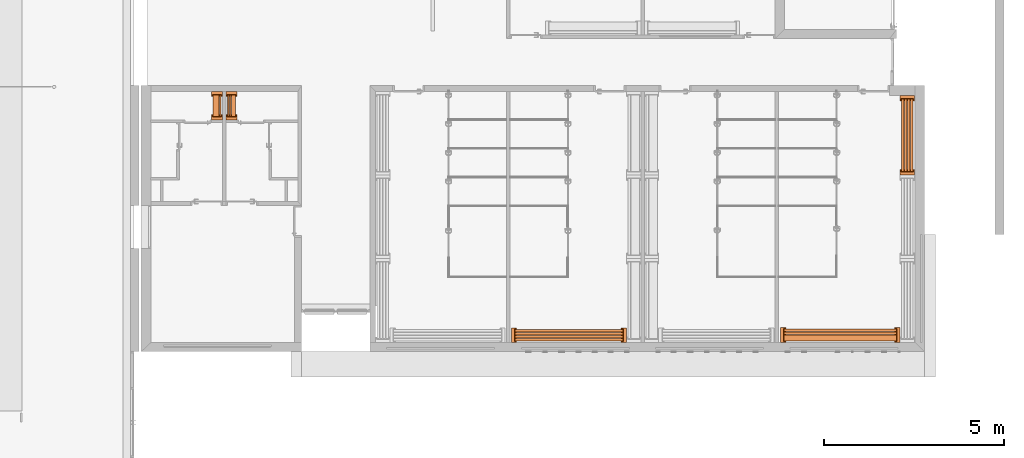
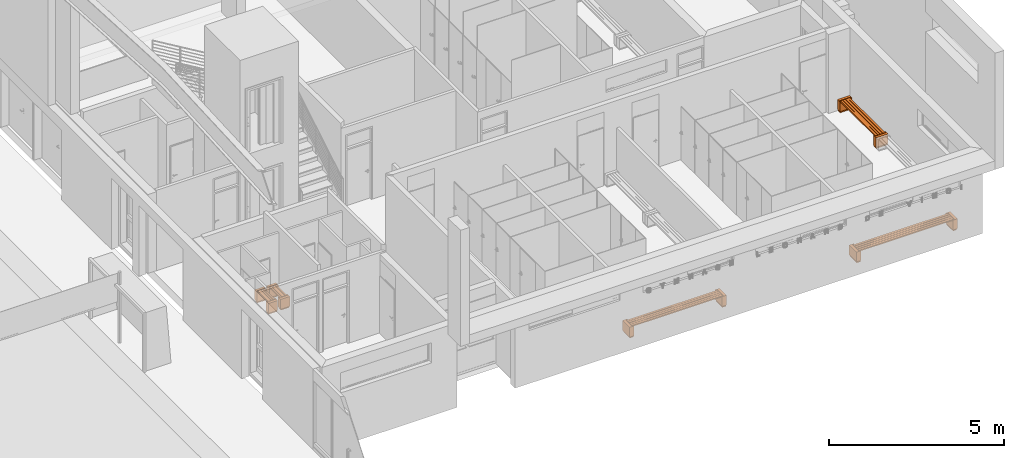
# One storey, part 45 of 45: 5 proxies.
"""IFC2X3 building model written with IfcOpenShell, lengths in metres."""

import ifcopenshell
import ifcopenshell.guid

model = None  # the IFC model being written
_history = None  # IfcOwnerHistory: only IFC2X3 demands one
_inside = {}  # id of a spatial element -> (the spatial element, [elements in it])
_under = {}  # id of a project, library or spatial element -> (it, [spatial elements below it])
_declared = {}  # id of a project -> (the project, [libraries it declares])
_typed = {}  # id of a type object -> (the type object, [elements of that type])
_made_of = {}  # id of a material, layer set ... -> (it, [elements and type objects made of it])


def new_model(schema):
    """Start an empty IFC model of exactly this schema.

    Asked for "IFC4X3", IfcOpenShell would pick the latest addendum, in which some entities
    have other attributes; the version numbers below select the first issue.
    IFC2X3 requires an IfcOwnerHistory on every rooted entity: one is made here for all.
    """
    global model, _history
    if schema == "IFC4X3":
        model = ifcopenshell.file(schema_version=(4, 3, 0, 0))
    else:
        model = ifcopenshell.file(schema=schema)
    _inside.clear()
    _under.clear()
    _declared.clear()
    _typed.clear()
    _made_of.clear()
    _history = None
    if model.schema == "IFC2X3":
        org = make("IfcOrganization", Name="unknown")
        user = make(
            "IfcPersonAndOrganization",
            ThePerson=make("IfcPerson", FamilyName="unknown"),
            TheOrganization=org,
        )
        app = make(
            "IfcApplication",
            ApplicationDeveloper=org,
            Version="unknown",
            ApplicationFullName="unknown",
            ApplicationIdentifier="unknown",
        )
        _history = make(
            "IfcOwnerHistory",
            OwningUser=user,
            OwningApplication=app,
            ChangeAction="ADDED",
            CreationDate=0,
        )
    return model


def make(cls, **values):
    """One entity of the class cls with the attributes given. An attribute that is None is left unset."""
    return model.create_entity(
        cls, **{name: value for name, value in values.items() if value is not None}
    )


def entity(cls, *values):
    """Any entity or typed value of the class cls, its attributes in the order of the schema. None: left unset."""
    e = model.create_entity(cls)
    for i, value in enumerate(values):
        if value is not None:
            e[i] = value
    return e


def rooted(cls, **values):
    """An entity with a GlobalId (a new one), such as an element, a storey or a relation."""
    return make(cls, GlobalId=ifcopenshell.guid.new(), OwnerHistory=_history, **values)


def si_unit(unit_type, name, prefix=None):
    """IfcSIUnit, for example si_unit("LENGTHUNIT", "METRE", prefix="MILLI")."""
    return make("IfcSIUnit", UnitType=unit_type, Prefix=prefix, Name=name)


def converted_unit(unit_type, name, factor, base, dimensions=None, offset=None):
    """IfcConversionBasedUnit, such as the inch: factor (a typed value) times the base unit."""
    return make(
        "IfcConversionBasedUnit"
        if offset is None
        else "IfcConversionBasedUnitWithOffset",
        ConversionOffset=offset,
        Dimensions=None
        if dimensions is None
        else entity("IfcDimensionalExponents", *dimensions),
        UnitType=unit_type,
        Name=name,
        ConversionFactor=make(
            "IfcMeasureWithUnit", ValueComponent=factor, UnitComponent=base
        ),
    )


def money_unit(currency):
    """IfcMonetaryUnit."""
    return make("IfcMonetaryUnit", Currency=currency)


def assignment(units):
    """IfcUnitAssignment: the units of a project."""
    return None if units is None else make("IfcUnitAssignment", Units=units)


def point(xyz):
    """IfcCartesianPoint."""
    return None if xyz is None else make("IfcCartesianPoint", Coordinates=xyz)


def direction(xyz):
    """IfcDirection."""
    return None if xyz is None else make("IfcDirection", DirectionRatios=xyz)


def frame(location, z_axis=None, x_axis=None):
    """IfcAxis2Placement3D, a coordinate frame: its origin and axes. An axis left out is left unset."""
    return make(
        "IfcAxis2Placement3D",
        Location=point(location),
        Axis=direction(z_axis),
        RefDirection=direction(x_axis),
    )


def origin_with_axes():
    """The frame at (0, 0, 0) with the z axis (0, 0, 1) and the x axis (1, 0, 0) written out."""
    return frame((0.0, 0.0, 0.0), z_axis=(0.0, 0.0, 1.0), x_axis=(1.0, 0.0, 0.0))


def place(relative_to, where):
    """IfcLocalPlacement: puts the frame where relative to a parent placement (None: the world)."""
    return make(
        "IfcLocalPlacement", PlacementRelTo=relative_to, RelativePlacement=where
    )


def context(
    kind, dimensions, precision=None, world=None, true_north=None, identifier=None
):
    """IfcGeometricRepresentationContext, for example the 3D "Model" context."""
    return make(
        "IfcGeometricRepresentationContext",
        ContextIdentifier=identifier,
        ContextType=kind,
        CoordinateSpaceDimension=dimensions,
        Precision=precision,
        WorldCoordinateSystem=world,
        TrueNorth=true_north,
    )


def subcontext(parent, identifier, kind, view, scale=None):
    """IfcGeometricRepresentationSubContext, for example "Body" below "Model"."""
    return make(
        "IfcGeometricRepresentationSubContext",
        ContextIdentifier=identifier,
        ContextType=kind,
        ParentContext=parent,
        TargetScale=scale,
        TargetView=view,
    )


def project(units=None, contexts=None):
    """IfcProject with its units and contexts."""
    return rooted(
        "IfcProject",
        Name="project",
        RepresentationContexts=contexts,
        UnitsInContext=assignment(units),
    )


def spatial(cls, under=None, at=None, **own):
    """A site, building, storey or space (cls), placed at a placement, below another one or the project."""
    s = rooted(cls, ObjectPlacement=at, **own)
    if under is not None:
        _under.setdefault(under.id(), (under, []))[1].append(s)
    return s


def faces_of(points, faces, orient=None, outer=None):
    """IfcFace entities. A face is a list of loops; a loop is a list of indices into points, from 0.

    orient and outer hold one flag for each loop. By default every Orientation is true, the
    first loop of a face is its IfcFaceOuterBound and the others are IfcFaceBound.
    """
    made = []
    for i, loops in enumerate(faces):
        bounds = []
        for j, loop in enumerate(loops):
            is_outer = j == 0 if outer is None else outer[i][j]
            bounds.append(
                make(
                    "IfcFaceOuterBound" if is_outer else "IfcFaceBound",
                    Bound=make("IfcPolyLoop", Polygon=[points[k] for k in loop]),
                    Orientation=True if orient is None else orient[i][j],
                )
            )
        made.append(make("IfcFace", Bounds=bounds))
    return made


def faceted_brep(points, faces, orient=None, outer=None, voids=None):
    """IfcFacetedBrep: a solid bounded by flat faces; with voids (closed shells), ...WithVoids."""
    shared = [point(p) for p in points]
    hull = make("IfcClosedShell", CfsFaces=faces_of(shared, faces, orient, outer))
    if voids is None:
        return make("IfcFacetedBrep", Outer=hull)
    return make(
        "IfcFacetedBrepWithVoids",
        Outer=hull,
        Voids=[
            make(cls, CfsFaces=faces_of(shared, fs, o, b)) for cls, fs, o, b in voids
        ],
    )


def shape(context_of_items, identifier, shape_type, items):
    """IfcShapeRepresentation: the items that make up one representation, for example the "Body"."""
    return make(
        "IfcShapeRepresentation",
        ContextOfItems=context_of_items,
        RepresentationIdentifier=identifier,
        RepresentationType=shape_type,
        Items=items,
    )


def material(Name=None, Category=None):
    """IfcMaterial."""
    return make("IfcMaterial", Name=Name, Category=Category)


def made_of(thing, what):
    """Note that an element or type object is made of a material, layer set ...; save() writes the relation."""
    if what is not None:
        _made_of.setdefault(what.id(), (what, []))[1].append(thing)
    return thing


def type_object(cls, material=None, **own):
    """A type object (cls), such as IfcWallType, which elements share."""
    return made_of(rooted(cls, **own), material)


def element(
    cls,
    number,
    at=None,
    inside=None,
    cuts=None,
    type_object=None,
    material=None,
    context=None,
    identifier="Body",
    shape_type=None,
    held_by="IfcProductDefinitionShape",
    body=None,
    shapes=None,
    **own,
):
    """One element of the class cls, such as IfcWall. Its Tag is "e" and its number.

    at: its placement. inside: the storey or other place that contains it. cuts: it is an
    opening in that element (IfcRelVoidsElement). A single representation is given by context,
    identifier, shape_type and body (its items); several are given by shapes. held_by: the class
    of the entity that holds the representations. save() writes the other relations.
    """
    e = rooted(cls, Tag="e%d" % number, ObjectPlacement=at, **own)
    if body is not None:
        shapes = [shape(context, identifier, shape_type, body)]
    if shapes is not None:
        e.Representation = make(held_by, Representations=shapes)
    if inside is not None:
        _inside.setdefault(inside.id(), (inside, []))[1].append(e)
    if cuts is not None:
        rooted(
            "IfcRelVoidsElement", RelatingBuildingElement=cuts, RelatedOpeningElement=e
        )
    if type_object is not None:
        _typed.setdefault(type_object.id(), (type_object, []))[1].append(e)
    return made_of(e, material)


def aggregate(whole, parts):
    """IfcRelAggregates: a whole, such as a stair, and the parts it consists of."""
    return rooted("IfcRelAggregates", RelatingObject=whole, RelatedObjects=parts)


def save(model, path):
    """Write the relations noted so far, then the file.

    IfcRelAggregates (storeys below a building ...), IfcRelContainedInSpatialStructure (elements
    in a storey), IfcRelDefinesByType, IfcRelAssociatesMaterial and IfcRelDeclares: one each for
    every whole, place, type object, material and project.
    """
    for whole, parts in _under.values():
        aggregate(whole, parts)
    for where, things in _inside.values():
        rooted(
            "IfcRelContainedInSpatialStructure",
            RelatedElements=things,
            RelatingStructure=where,
        )
    for kind, things in _typed.values():
        rooted("IfcRelDefinesByType", RelatedObjects=things, RelatingType=kind)
    for what, things in _made_of.values():
        rooted("IfcRelAssociatesMaterial", RelatedObjects=things, RelatingMaterial=what)
    for by, libraries in _declared.values():
        rooted("IfcRelDeclares", RelatingContext=by, RelatedDefinitions=libraries)
    model.write(path)


model = new_model("IFC2X3")

# Units and contexts
model_context = context("Model", 3, precision=1e-05, world=origin_with_axes(), true_north=direction((0.0, 1.0)))
body_context = subcontext(model_context, "Body", "Model", "MODEL_VIEW")
ifc_project = project(units=[si_unit("LENGTHUNIT", "METRE"), si_unit("AREAUNIT", "SQUARE_METRE"), si_unit("VOLUMEUNIT", "CUBIC_METRE"), converted_unit("PLANEANGLEUNIT", "DEGREE", entity("IfcPlaneAngleMeasure", 0.0174532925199), si_unit("PLANEANGLEUNIT", "RADIAN"), dimensions=[0, 0, 0, 0, 0, 0, 0]), si_unit("SOLIDANGLEUNIT", "STERADIAN"), money_unit("EUR"), converted_unit("TIMEUNIT", "Year", entity("IfcTimeMeasure", 31556926.0), si_unit("TIMEUNIT", "SECOND"), dimensions=[0, 0, 0, 0, 0, 0, 0]), si_unit("MASSUNIT", "GRAM"), si_unit("THERMODYNAMICTEMPERATUREUNIT", "DEGREE_CELSIUS"), si_unit("LUMINOUSINTENSITYUNIT", "LUMEN")], contexts=[model_context])

# Site, building, storey
site_placement = place(None, origin_with_axes())
site = spatial("IfcSite", under=ifc_project, at=site_placement, Name="Site", CompositionType="ELEMENT")
building_placement = place(site_placement, origin_with_axes())
building = spatial("IfcBuilding", under=site, at=building_placement, Name="Bâtiment", CompositionType="ELEMENT")
storey_placement = place(building_placement, origin_with_axes())
storey = spatial("IfcBuildingStorey", under=building, at=storey_placement, Name="NIVEAU BAS GYMNASE", CompositionType="ELEMENT", Elevation=0.0)

# Proxies
ifc_material = material(Name="AS_EMPTY")
building_element_proxy_type = type_object("IfcBuildingElementProxyType", Name="Banc public 04 10", PredefinedType="NOTDEFINED")
proxy_1_placement = place(storey_placement, frame((66.778457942, 11.8854823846, 0.0), z_axis=(0.0, 0.0, 1.0), x_axis=(0.0, -1.0, 0.0)))
element("IfcBuildingElementProxy", 1, at=proxy_1_placement, inside=storey, type_object=building_element_proxy_type, material=ifc_material, Name="Obj.-025", context=body_context, shape_type="Brep", body=[
    faceted_brep([(1.088333, -0.185, 0.0), (1.088333, -0.185, 0.05), (0.968333, -0.185, 0.05), (0.968333, -0.185, 0.0), (1.088333, 0.185, 0.0), (1.088333, 0.185, 0.05), (0.968333, 0.185, 0.05), (0.968333, 0.185, 0.0)], [[[0, 1, 2, 3]], [[4, 5, 1, 0]], [[1, 5, 6, 2]], [[3, 2, 6, 7]], [[0, 3, 7, 4]], [[7, 6, 5, 4]]]),
    faceted_brep([(1.103333, -0.2, 0.05), (1.103333, -0.2, 0.35), (0.953333, -0.2, 0.35), (0.953333, -0.2, 0.05), (1.103333, 0.2, 0.05), (1.103333, 0.2, 0.35), (0.953333, 0.2, 0.35), (0.953333, 0.2, 0.05)], [[[0, 1, 2, 3]], [[4, 5, 1, 0]], [[1, 5, 6, 2]], [[3, 2, 6, 7]], [[0, 3, 7, 4]], [[7, 6, 5, 4]]]),
    faceted_brep([(1.103333, -0.2, 0.35), (1.103333, -0.2, 0.39), (0.953333, -0.2, 0.39), (0.953333, -0.2, 0.35), (1.103333, 0.2, 0.35), (1.103333, 0.2, 0.39), (0.953333, 0.2, 0.39), (0.953333, 0.175, 0.39), (1.018333, 0.175, 0.39), (1.018333, -0.175, 0.39), (0.953333, -0.175, 0.39), (0.953333, -0.175, 0.35), (1.018333, -0.175, 0.35), (1.018333, 0.175, 0.35), (0.953333, 0.175, 0.35), (0.953333, 0.2, 0.35)], [[[0, 1, 2, 3]], [[4, 5, 1, 0]], [[1, 5, 6, 7, 8, 9, 10, 2]], [[3, 2, 10, 11]], [[0, 3, 11, 12, 13, 14, 15, 4]], [[15, 6, 5, 4]], [[14, 7, 6, 15]], [[13, 8, 7, 14]], [[12, 9, 8, 13]], [[11, 10, 9, 12]]]),
    faceted_brep([(-1.088333, -0.185, 0.0), (-0.968333, -0.185, 0.0), (-0.968333, -0.185, 0.05), (-1.088333, -0.185, 0.05), (-1.088333, 0.185, 0.0), (-0.968333, 0.185, 0.0), (-0.968333, 0.185, 0.05), (-1.088333, 0.185, 0.05)], [[[0, 1, 2, 3]], [[0, 4, 5, 1]], [[1, 5, 6, 2]], [[3, 2, 6, 7]], [[4, 0, 3, 7]], [[5, 4, 7, 6]]]),
    faceted_brep([(-1.103333, -0.2, 0.05), (-0.953333, -0.2, 0.05), (-0.953333, -0.2, 0.35), (-1.103333, -0.2, 0.35), (-1.103333, 0.2, 0.05), (-0.953333, 0.2, 0.05), (-0.953333, 0.2, 0.35), (-1.103333, 0.2, 0.35)], [[[0, 1, 2, 3]], [[0, 4, 5, 1]], [[1, 5, 6, 2]], [[3, 2, 6, 7]], [[4, 0, 3, 7]], [[5, 4, 7, 6]]]),
    faceted_brep([(-1.103333, -0.2, 0.35), (-0.953333, -0.2, 0.35), (-0.953333, -0.2, 0.39), (-1.103333, -0.2, 0.39), (-1.103333, 0.2, 0.35), (-0.953333, 0.2, 0.35), (-0.953333, 0.175, 0.35), (-1.018333, 0.175, 0.35), (-1.018333, -0.175, 0.35), (-0.953333, -0.175, 0.35), (-0.953333, -0.175, 0.39), (-1.018333, -0.175, 0.39), (-1.018333, 0.175, 0.39), (-0.953333, 0.175, 0.39), (-0.953333, 0.2, 0.39), (-1.103333, 0.2, 0.39)], [[[0, 1, 2, 3]], [[0, 4, 5, 6, 7, 8, 9, 1]], [[1, 9, 10, 2]], [[3, 2, 10, 11, 12, 13, 14, 15]], [[4, 0, 3, 15]], [[5, 4, 15, 14]], [[6, 5, 14, 13]], [[7, 6, 13, 12]], [[8, 7, 12, 11]], [[9, 8, 11, 10]]]),
    faceted_brep([(1.003333, -0.16, 0.35), (1.003333, -0.16, 0.39), (-1.003333, -0.16, 0.39), (-1.003333, -0.16, 0.35), (1.003333, -0.0875, 0.35), (1.003333, -0.0875, 0.39), (-1.003333, -0.0875, 0.39), (-1.003333, -0.0875, 0.35)], [[[0, 1, 2, 3]], [[4, 5, 1, 0]], [[1, 5, 6, 2]], [[3, 2, 6, 7]], [[0, 3, 7, 4]], [[7, 6, 5, 4]]]),
    faceted_brep([(1.003333, -0.0775, 0.35), (1.003333, -0.0775, 0.39), (-1.003333, -0.0775, 0.39), (-1.003333, -0.0775, 0.35), (1.003333, -0.005, 0.35), (1.003333, -0.005, 0.39), (-1.003333, -0.005, 0.39), (-1.003333, -0.005, 0.35)], [[[0, 1, 2, 3]], [[4, 5, 1, 0]], [[1, 5, 6, 2]], [[3, 2, 6, 7]], [[0, 3, 7, 4]], [[7, 6, 5, 4]]]),
    faceted_brep([(1.003333, 0.005, 0.35), (1.003333, 0.005, 0.39), (-1.003333, 0.005, 0.39), (-1.003333, 0.005, 0.35), (1.003333, 0.0775, 0.35), (1.003333, 0.0775, 0.39), (-1.003333, 0.0775, 0.39), (-1.003333, 0.0775, 0.35)], [[[0, 1, 2, 3]], [[4, 5, 1, 0]], [[1, 5, 6, 2]], [[3, 2, 6, 7]], [[0, 3, 7, 4]], [[7, 6, 5, 4]]]),
    faceted_brep([(1.003333, 0.0875, 0.35), (1.003333, 0.0875, 0.39), (-1.003333, 0.0875, 0.39), (-1.003333, 0.0875, 0.35), (1.003333, 0.16, 0.35), (1.003333, 0.16, 0.39), (-1.003333, 0.16, 0.39), (-1.003333, 0.16, 0.35)], [[[0, 1, 2, 3]], [[4, 5, 1, 0]], [[1, 5, 6, 2]], [[3, 2, 6, 7]], [[0, 3, 7, 4]], [[7, 6, 5, 4]]]),
])
proxy_2_placement = place(storey_placement, frame((57.3685729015, 6.32881571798, 0.0), z_axis=(0.0, 0.0, 1.0), x_axis=(-1.0, 0.0, 0.0)))
element("IfcBuildingElementProxy", 2, at=proxy_2_placement, inside=storey, type_object=building_element_proxy_type, material=ifc_material, Name="Obj.-025", context=body_context, shape_type="Brep", body=[
    faceted_brep([(1.584885, -0.185, 0.0), (1.584885, -0.185, 0.05), (1.464885, -0.185, 0.05), (1.464885, -0.185, 0.0), (1.584885, 0.185, 0.0), (1.584885, 0.185, 0.05), (1.464885, 0.185, 0.05), (1.464885, 0.185, 0.0)], [[[0, 1, 2, 3]], [[4, 5, 1, 0]], [[1, 5, 6, 2]], [[3, 2, 6, 7]], [[0, 3, 7, 4]], [[7, 6, 5, 4]]]),
    faceted_brep([(1.599885, -0.2, 0.05), (1.599885, -0.2, 0.35), (1.449885, -0.2, 0.35), (1.449885, -0.2, 0.05), (1.599885, 0.2, 0.05), (1.599885, 0.2, 0.35), (1.449885, 0.2, 0.35), (1.449885, 0.2, 0.05)], [[[0, 1, 2, 3]], [[4, 5, 1, 0]], [[1, 5, 6, 2]], [[3, 2, 6, 7]], [[0, 3, 7, 4]], [[7, 6, 5, 4]]]),
    faceted_brep([(1.599885, -0.2, 0.35), (1.599885, -0.2, 0.39), (1.449885, -0.2, 0.39), (1.449885, -0.2, 0.35), (1.599885, 0.2, 0.35), (1.599885, 0.2, 0.39), (1.449885, 0.2, 0.39), (1.449885, 0.175, 0.39), (1.514885, 0.175, 0.39), (1.514885, -0.175, 0.39), (1.449885, -0.175, 0.39), (1.449885, -0.175, 0.35), (1.514885, -0.175, 0.35), (1.514885, 0.175, 0.35), (1.449885, 0.175, 0.35), (1.449885, 0.2, 0.35)], [[[0, 1, 2, 3]], [[4, 5, 1, 0]], [[1, 5, 6, 7, 8, 9, 10, 2]], [[3, 2, 10, 11]], [[0, 3, 11, 12, 13, 14, 15, 4]], [[15, 6, 5, 4]], [[14, 7, 6, 15]], [[13, 8, 7, 14]], [[12, 9, 8, 13]], [[11, 10, 9, 12]]]),
    faceted_brep([(-1.584885, -0.185, 0.0), (-1.464885, -0.185, 0.0), (-1.464885, -0.185, 0.05), (-1.584885, -0.185, 0.05), (-1.584885, 0.185, 0.0), (-1.464885, 0.185, 0.0), (-1.464885, 0.185, 0.05), (-1.584885, 0.185, 0.05)], [[[0, 1, 2, 3]], [[0, 4, 5, 1]], [[1, 5, 6, 2]], [[3, 2, 6, 7]], [[4, 0, 3, 7]], [[5, 4, 7, 6]]]),
    faceted_brep([(-1.599885, -0.2, 0.05), (-1.449885, -0.2, 0.05), (-1.449885, -0.2, 0.35), (-1.599885, -0.2, 0.35), (-1.599885, 0.2, 0.05), (-1.449885, 0.2, 0.05), (-1.449885, 0.2, 0.35), (-1.599885, 0.2, 0.35)], [[[0, 1, 2, 3]], [[0, 4, 5, 1]], [[1, 5, 6, 2]], [[3, 2, 6, 7]], [[4, 0, 3, 7]], [[5, 4, 7, 6]]]),
    faceted_brep([(-1.599885, -0.2, 0.35), (-1.449885, -0.2, 0.35), (-1.449885, -0.2, 0.39), (-1.599885, -0.2, 0.39), (-1.599885, 0.2, 0.35), (-1.449885, 0.2, 0.35), (-1.449885, 0.175, 0.35), (-1.514885, 0.175, 0.35), (-1.514885, -0.175, 0.35), (-1.449885, -0.175, 0.35), (-1.449885, -0.175, 0.39), (-1.514885, -0.175, 0.39), (-1.514885, 0.175, 0.39), (-1.449885, 0.175, 0.39), (-1.449885, 0.2, 0.39), (-1.599885, 0.2, 0.39)], [[[0, 1, 2, 3]], [[0, 4, 5, 6, 7, 8, 9, 1]], [[1, 9, 10, 2]], [[3, 2, 10, 11, 12, 13, 14, 15]], [[4, 0, 3, 15]], [[5, 4, 15, 14]], [[6, 5, 14, 13]], [[7, 6, 13, 12]], [[8, 7, 12, 11]], [[9, 8, 11, 10]]]),
    faceted_brep([(1.499885, -0.16, 0.35), (1.499885, -0.16, 0.39), (-1.499885, -0.16, 0.39), (-1.499885, -0.16, 0.35), (1.499885, -0.0875, 0.35), (1.499885, -0.0875, 0.39), (-1.499885, -0.0875, 0.39), (-1.499885, -0.0875, 0.35)], [[[0, 1, 2, 3]], [[4, 5, 1, 0]], [[1, 5, 6, 2]], [[3, 2, 6, 7]], [[0, 3, 7, 4]], [[7, 6, 5, 4]]]),
    faceted_brep([(1.499885, -0.0775, 0.35), (1.499885, -0.0775, 0.39), (-1.499885, -0.0775, 0.39), (-1.499885, -0.0775, 0.35), (1.499885, -0.005, 0.35), (1.499885, -0.005, 0.39), (-1.499885, -0.005, 0.39), (-1.499885, -0.005, 0.35)], [[[0, 1, 2, 3]], [[4, 5, 1, 0]], [[1, 5, 6, 2]], [[3, 2, 6, 7]], [[0, 3, 7, 4]], [[7, 6, 5, 4]]]),
    faceted_brep([(1.499885, 0.005, 0.35), (1.499885, 0.005, 0.39), (-1.499885, 0.005, 0.39), (-1.499885, 0.005, 0.35), (1.499885, 0.0775, 0.35), (1.499885, 0.0775, 0.39), (-1.499885, 0.0775, 0.39), (-1.499885, 0.0775, 0.35)], [[[0, 1, 2, 3]], [[4, 5, 1, 0]], [[1, 5, 6, 2]], [[3, 2, 6, 7]], [[0, 3, 7, 4]], [[7, 6, 5, 4]]]),
    faceted_brep([(1.499885, 0.0875, 0.35), (1.499885, 0.0875, 0.39), (-1.499885, 0.0875, 0.39), (-1.499885, 0.0875, 0.35), (1.499885, 0.16, 0.35), (1.499885, 0.16, 0.39), (-1.499885, 0.16, 0.39), (-1.499885, 0.16, 0.35)], [[[0, 1, 2, 3]], [[4, 5, 1, 0]], [[1, 5, 6, 2]], [[3, 2, 6, 7]], [[0, 3, 7, 4]], [[7, 6, 5, 4]]]),
])
proxy_3_placement = place(storey_placement, frame((64.9148207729, 6.33678530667, 0.0), z_axis=(0.0, 0.0, 1.0), x_axis=(-1.0, 0.0, 0.0)))
element("IfcBuildingElementProxy", 3, at=proxy_3_placement, inside=storey, type_object=building_element_proxy_type, material=ifc_material, Name="Obj.-025", context=body_context, shape_type="Brep", body=[
    faceted_brep([(1.648637, -0.19297, 0.0), (1.648637, -0.19297, 0.05), (1.528637, -0.19297, 0.05), (1.528637, -0.19297, 0.0), (1.648637, 0.19297, 0.0), (1.648637, 0.19297, 0.05), (1.528637, 0.19297, 0.05), (1.528637, 0.19297, 0.0)], [[[0, 1, 2, 3]], [[4, 5, 1, 0]], [[1, 5, 6, 2]], [[3, 2, 6, 7]], [[0, 3, 7, 4]], [[7, 6, 5, 4]]]),
    faceted_brep([(1.663637, -0.20797, 0.05), (1.663637, -0.20797, 0.35), (1.513637, -0.20797, 0.35), (1.513637, -0.20797, 0.05), (1.663637, 0.20797, 0.05), (1.663637, 0.20797, 0.35), (1.513637, 0.20797, 0.35), (1.513637, 0.20797, 0.05)], [[[0, 1, 2, 3]], [[4, 5, 1, 0]], [[1, 5, 6, 2]], [[3, 2, 6, 7]], [[0, 3, 7, 4]], [[7, 6, 5, 4]]]),
    faceted_brep([(1.663637, -0.20797, 0.35), (1.663637, -0.20797, 0.39), (1.513637, -0.20797, 0.39), (1.513637, -0.20797, 0.35), (1.663637, 0.20797, 0.35), (1.663637, 0.20797, 0.39), (1.513637, 0.20797, 0.39), (1.513637, 0.18297, 0.39), (1.578637, 0.18297, 0.39), (1.578637, -0.18297, 0.39), (1.513637, -0.18297, 0.39), (1.513637, -0.18297, 0.35), (1.578637, -0.18297, 0.35), (1.578637, 0.18297, 0.35), (1.513637, 0.18297, 0.35), (1.513637, 0.20797, 0.35)], [[[0, 1, 2, 3]], [[4, 5, 1, 0]], [[1, 5, 6, 7, 8, 9, 10, 2]], [[3, 2, 10, 11]], [[0, 3, 11, 12, 13, 14, 15, 4]], [[15, 6, 5, 4]], [[14, 7, 6, 15]], [[13, 8, 7, 14]], [[12, 9, 8, 13]], [[11, 10, 9, 12]]]),
    faceted_brep([(-1.648637, -0.19297, 0.0), (-1.528637, -0.19297, 0.0), (-1.528637, -0.19297, 0.05), (-1.648637, -0.19297, 0.05), (-1.648637, 0.19297, 0.0), (-1.528637, 0.19297, 0.0), (-1.528637, 0.19297, 0.05), (-1.648637, 0.19297, 0.05)], [[[0, 1, 2, 3]], [[0, 4, 5, 1]], [[1, 5, 6, 2]], [[3, 2, 6, 7]], [[4, 0, 3, 7]], [[5, 4, 7, 6]]]),
    faceted_brep([(-1.663637, -0.20797, 0.05), (-1.513637, -0.20797, 0.05), (-1.513637, -0.20797, 0.35), (-1.663637, -0.20797, 0.35), (-1.663637, 0.20797, 0.05), (-1.513637, 0.20797, 0.05), (-1.513637, 0.20797, 0.35), (-1.663637, 0.20797, 0.35)], [[[0, 1, 2, 3]], [[0, 4, 5, 1]], [[1, 5, 6, 2]], [[3, 2, 6, 7]], [[4, 0, 3, 7]], [[5, 4, 7, 6]]]),
    faceted_brep([(-1.663637, -0.20797, 0.35), (-1.513637, -0.20797, 0.35), (-1.513637, -0.20797, 0.39), (-1.663637, -0.20797, 0.39), (-1.663637, 0.20797, 0.35), (-1.513637, 0.20797, 0.35), (-1.513637, 0.18297, 0.35), (-1.578637, 0.18297, 0.35), (-1.578637, -0.18297, 0.35), (-1.513637, -0.18297, 0.35), (-1.513637, -0.18297, 0.39), (-1.578637, -0.18297, 0.39), (-1.578637, 0.18297, 0.39), (-1.513637, 0.18297, 0.39), (-1.513637, 0.20797, 0.39), (-1.663637, 0.20797, 0.39)], [[[0, 1, 2, 3]], [[0, 4, 5, 6, 7, 8, 9, 1]], [[1, 9, 10, 2]], [[3, 2, 10, 11, 12, 13, 14, 15]], [[4, 0, 3, 15]], [[5, 4, 15, 14]], [[6, 5, 14, 13]], [[7, 6, 13, 12]], [[8, 7, 12, 11]], [[9, 8, 11, 10]]]),
    faceted_brep([(1.563637, -0.16797, 0.35), (1.563637, -0.16797, 0.39), (-1.563637, -0.16797, 0.39), (-1.563637, -0.16797, 0.35), (1.563637, -0.091485, 0.35), (1.563637, -0.091485, 0.39), (-1.563637, -0.091485, 0.39), (-1.563637, -0.091485, 0.35)], [[[0, 1, 2, 3]], [[4, 5, 1, 0]], [[1, 5, 6, 2]], [[3, 2, 6, 7]], [[0, 3, 7, 4]], [[7, 6, 5, 4]]]),
    faceted_brep([(1.563637, -0.081485, 0.35), (1.563637, -0.081485, 0.39), (-1.563637, -0.081485, 0.39), (-1.563637, -0.081485, 0.35), (1.563637, -0.005, 0.35), (1.563637, -0.005, 0.39), (-1.563637, -0.005, 0.39), (-1.563637, -0.005, 0.35)], [[[0, 1, 2, 3]], [[4, 5, 1, 0]], [[1, 5, 6, 2]], [[3, 2, 6, 7]], [[0, 3, 7, 4]], [[7, 6, 5, 4]]]),
    faceted_brep([(1.563637, 0.005, 0.35), (1.563637, 0.005, 0.39), (-1.563637, 0.005, 0.39), (-1.563637, 0.005, 0.35), (1.563637, 0.081485, 0.35), (1.563637, 0.081485, 0.39), (-1.563637, 0.081485, 0.39), (-1.563637, 0.081485, 0.35)], [[[0, 1, 2, 3]], [[4, 5, 1, 0]], [[1, 5, 6, 2]], [[3, 2, 6, 7]], [[0, 3, 7, 4]], [[7, 6, 5, 4]]]),
    faceted_brep([(1.563637, 0.091485, 0.35), (1.563637, 0.091485, 0.39), (-1.563637, 0.091485, 0.39), (-1.563637, 0.091485, 0.35), (1.563637, 0.16797, 0.35), (1.563637, 0.16797, 0.39), (-1.563637, 0.16797, 0.39), (-1.563637, 0.16797, 0.35)], [[[0, 1, 2, 3]], [[4, 5, 1, 0]], [[1, 5, 6, 2]], [[3, 2, 6, 7]], [[0, 3, 7, 4]], [[7, 6, 5, 4]]]),
])
proxy_4_placement = place(storey_placement, frame((47.588457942, 12.708815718, 0.0), z_axis=(0.0, 0.0, 1.0), x_axis=(0.0, -1.0, 0.0)))
element("IfcBuildingElementProxy", 4, at=proxy_4_placement, inside=storey, type_object=building_element_proxy_type, material=ifc_material, Name="Obj.-025", context=body_context, shape_type="Brep", body=[
    faceted_brep([(-0.385, -0.135, 0.0), (-0.265, -0.135, 0.0), (-0.265, -0.135, 0.05), (-0.385, -0.135, 0.05), (-0.385, 0.135, 0.0), (-0.265, 0.135, 0.0), (-0.265, 0.135, 0.05), (-0.385, 0.135, 0.05)], [[[0, 1, 2, 3]], [[0, 4, 5, 1]], [[1, 5, 6, 2]], [[3, 2, 6, 7]], [[4, 0, 3, 7]], [[5, 4, 7, 6]]]),
    faceted_brep([(-0.4, -0.15, 0.05), (-0.25, -0.15, 0.05), (-0.25, -0.15, 0.35), (-0.4, -0.15, 0.35), (-0.4, 0.15, 0.05), (-0.25, 0.15, 0.05), (-0.25, 0.15, 0.35), (-0.4, 0.15, 0.35)], [[[0, 1, 2, 3]], [[0, 4, 5, 1]], [[1, 5, 6, 2]], [[3, 2, 6, 7]], [[4, 0, 3, 7]], [[5, 4, 7, 6]]]),
    faceted_brep([(-0.4, -0.15, 0.35), (-0.25, -0.15, 0.35), (-0.25, -0.15, 0.39), (-0.4, -0.15, 0.39), (-0.4, 0.15, 0.35), (-0.25, 0.15, 0.35), (-0.25, 0.125, 0.35), (-0.315, 0.125, 0.35), (-0.315, -0.125, 0.35), (-0.25, -0.125, 0.35), (-0.25, -0.125, 0.39), (-0.315, -0.125, 0.39), (-0.315, 0.125, 0.39), (-0.25, 0.125, 0.39), (-0.25, 0.15, 0.39), (-0.4, 0.15, 0.39)], [[[0, 1, 2, 3]], [[0, 4, 5, 6, 7, 8, 9, 1]], [[1, 9, 10, 2]], [[3, 2, 10, 11, 12, 13, 14, 15]], [[4, 0, 3, 15]], [[5, 4, 15, 14]], [[6, 5, 14, 13]], [[7, 6, 13, 12]], [[8, 7, 12, 11]], [[9, 8, 11, 10]]]),
    faceted_brep([(0.385, -0.135, 0.0), (0.385, -0.135, 0.05), (0.265, -0.135, 0.05), (0.265, -0.135, 0.0), (0.385, 0.135, 0.0), (0.385, 0.135, 0.05), (0.265, 0.135, 0.05), (0.265, 0.135, 0.0)], [[[0, 1, 2, 3]], [[4, 5, 1, 0]], [[1, 5, 6, 2]], [[3, 2, 6, 7]], [[0, 3, 7, 4]], [[7, 6, 5, 4]]]),
    faceted_brep([(0.4, -0.15, 0.05), (0.4, -0.15, 0.35), (0.25, -0.15, 0.35), (0.25, -0.15, 0.05), (0.4, 0.15, 0.05), (0.4, 0.15, 0.35), (0.25, 0.15, 0.35), (0.25, 0.15, 0.05)], [[[0, 1, 2, 3]], [[4, 5, 1, 0]], [[1, 5, 6, 2]], [[3, 2, 6, 7]], [[0, 3, 7, 4]], [[7, 6, 5, 4]]]),
    faceted_brep([(0.4, -0.15, 0.35), (0.4, -0.15, 0.39), (0.25, -0.15, 0.39), (0.25, -0.15, 0.35), (0.4, 0.15, 0.35), (0.4, 0.15, 0.39), (0.25, 0.15, 0.39), (0.25, 0.125, 0.39), (0.315, 0.125, 0.39), (0.315, -0.125, 0.39), (0.25, -0.125, 0.39), (0.25, -0.125, 0.35), (0.315, -0.125, 0.35), (0.315, 0.125, 0.35), (0.25, 0.125, 0.35), (0.25, 0.15, 0.35)], [[[0, 1, 2, 3]], [[4, 5, 1, 0]], [[1, 5, 6, 7, 8, 9, 10, 2]], [[3, 2, 10, 11]], [[0, 3, 11, 12, 13, 14, 15, 4]], [[15, 6, 5, 4]], [[14, 7, 6, 15]], [[13, 8, 7, 14]], [[12, 9, 8, 13]], [[11, 10, 9, 12]]]),
    faceted_brep([(-0.3, -0.11, 0.35), (0.3, -0.11, 0.35), (0.3, -0.11, 0.39), (-0.3, -0.11, 0.39), (-0.3, -0.0625, 0.35), (0.3, -0.0625, 0.35), (0.3, -0.0625, 0.39), (-0.3, -0.0625, 0.39)], [[[0, 1, 2, 3]], [[0, 4, 5, 1]], [[1, 5, 6, 2]], [[3, 2, 6, 7]], [[4, 0, 3, 7]], [[5, 4, 7, 6]]]),
    faceted_brep([(-0.3, -0.0525, 0.35), (0.3, -0.0525, 0.35), (0.3, -0.0525, 0.39), (-0.3, -0.0525, 0.39), (-0.3, -0.005, 0.35), (0.3, -0.005, 0.35), (0.3, -0.005, 0.39), (-0.3, -0.005, 0.39)], [[[0, 1, 2, 3]], [[0, 4, 5, 1]], [[1, 5, 6, 2]], [[3, 2, 6, 7]], [[4, 0, 3, 7]], [[5, 4, 7, 6]]]),
    faceted_brep([(-0.3, 0.005, 0.35), (0.3, 0.005, 0.35), (0.3, 0.005, 0.39), (-0.3, 0.005, 0.39), (-0.3, 0.0525, 0.35), (0.3, 0.0525, 0.35), (0.3, 0.0525, 0.39), (-0.3, 0.0525, 0.39)], [[[0, 1, 2, 3]], [[0, 4, 5, 1]], [[1, 5, 6, 2]], [[3, 2, 6, 7]], [[4, 0, 3, 7]], [[5, 4, 7, 6]]]),
    faceted_brep([(-0.3, 0.0625, 0.35), (0.3, 0.0625, 0.35), (0.3, 0.0625, 0.39), (-0.3, 0.0625, 0.39), (-0.3, 0.11, 0.35), (0.3, 0.11, 0.35), (0.3, 0.11, 0.39), (-0.3, 0.11, 0.39)], [[[0, 1, 2, 3]], [[0, 4, 5, 1]], [[1, 5, 6, 2]], [[3, 2, 6, 7]], [[4, 0, 3, 7]], [[5, 4, 7, 6]]]),
])
proxy_5_placement = place(storey_placement, frame((47.988457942, 12.708815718, 0.0), z_axis=(0.0, 0.0, 1.0), x_axis=(0.0, 1.0, 0.0)))
element("IfcBuildingElementProxy", 5, at=proxy_5_placement, inside=storey, type_object=building_element_proxy_type, material=ifc_material, Name="Obj.-025", context=body_context, shape_type="Brep", body=[
    faceted_brep([(0.385, -0.135, 0.0), (0.385, -0.135, 0.05), (0.265, -0.135, 0.05), (0.265, -0.135, 0.0), (0.385, 0.135, 0.0), (0.385, 0.135, 0.05), (0.265, 0.135, 0.05), (0.265, 0.135, 0.0)], [[[0, 1, 2, 3]], [[4, 5, 1, 0]], [[1, 5, 6, 2]], [[3, 2, 6, 7]], [[0, 3, 7, 4]], [[7, 6, 5, 4]]]),
    faceted_brep([(0.4, -0.15, 0.05), (0.4, -0.15, 0.35), (0.25, -0.15, 0.35), (0.25, -0.15, 0.05), (0.4, 0.15, 0.05), (0.4, 0.15, 0.35), (0.25, 0.15, 0.35), (0.25, 0.15, 0.05)], [[[0, 1, 2, 3]], [[4, 5, 1, 0]], [[1, 5, 6, 2]], [[3, 2, 6, 7]], [[0, 3, 7, 4]], [[7, 6, 5, 4]]]),
    faceted_brep([(0.4, -0.15, 0.35), (0.4, -0.15, 0.39), (0.25, -0.15, 0.39), (0.25, -0.15, 0.35), (0.4, 0.15, 0.35), (0.4, 0.15, 0.39), (0.25, 0.15, 0.39), (0.25, 0.125, 0.39), (0.315, 0.125, 0.39), (0.315, -0.125, 0.39), (0.25, -0.125, 0.39), (0.25, -0.125, 0.35), (0.315, -0.125, 0.35), (0.315, 0.125, 0.35), (0.25, 0.125, 0.35), (0.25, 0.15, 0.35)], [[[0, 1, 2, 3]], [[4, 5, 1, 0]], [[1, 5, 6, 7, 8, 9, 10, 2]], [[3, 2, 10, 11]], [[0, 3, 11, 12, 13, 14, 15, 4]], [[15, 6, 5, 4]], [[14, 7, 6, 15]], [[13, 8, 7, 14]], [[12, 9, 8, 13]], [[11, 10, 9, 12]]]),
    faceted_brep([(-0.385, -0.135, 0.0), (-0.265, -0.135, 0.0), (-0.265, -0.135, 0.05), (-0.385, -0.135, 0.05), (-0.385, 0.135, 0.0), (-0.265, 0.135, 0.0), (-0.265, 0.135, 0.05), (-0.385, 0.135, 0.05)], [[[0, 1, 2, 3]], [[0, 4, 5, 1]], [[1, 5, 6, 2]], [[3, 2, 6, 7]], [[4, 0, 3, 7]], [[5, 4, 7, 6]]]),
    faceted_brep([(-0.4, -0.15, 0.05), (-0.25, -0.15, 0.05), (-0.25, -0.15, 0.35), (-0.4, -0.15, 0.35), (-0.4, 0.15, 0.05), (-0.25, 0.15, 0.05), (-0.25, 0.15, 0.35), (-0.4, 0.15, 0.35)], [[[0, 1, 2, 3]], [[0, 4, 5, 1]], [[1, 5, 6, 2]], [[3, 2, 6, 7]], [[4, 0, 3, 7]], [[5, 4, 7, 6]]]),
    faceted_brep([(-0.4, -0.15, 0.35), (-0.25, -0.15, 0.35), (-0.25, -0.15, 0.39), (-0.4, -0.15, 0.39), (-0.4, 0.15, 0.35), (-0.25, 0.15, 0.35), (-0.25, 0.125, 0.35), (-0.315, 0.125, 0.35), (-0.315, -0.125, 0.35), (-0.25, -0.125, 0.35), (-0.25, -0.125, 0.39), (-0.315, -0.125, 0.39), (-0.315, 0.125, 0.39), (-0.25, 0.125, 0.39), (-0.25, 0.15, 0.39), (-0.4, 0.15, 0.39)], [[[0, 1, 2, 3]], [[0, 4, 5, 6, 7, 8, 9, 1]], [[1, 9, 10, 2]], [[3, 2, 10, 11, 12, 13, 14, 15]], [[4, 0, 3, 15]], [[5, 4, 15, 14]], [[6, 5, 14, 13]], [[7, 6, 13, 12]], [[8, 7, 12, 11]], [[9, 8, 11, 10]]]),
    faceted_brep([(0.3, -0.11, 0.35), (0.3, -0.11, 0.39), (-0.3, -0.11, 0.39), (-0.3, -0.11, 0.35), (0.3, -0.0625, 0.35), (0.3, -0.0625, 0.39), (-0.3, -0.0625, 0.39), (-0.3, -0.0625, 0.35)], [[[0, 1, 2, 3]], [[4, 5, 1, 0]], [[1, 5, 6, 2]], [[3, 2, 6, 7]], [[0, 3, 7, 4]], [[7, 6, 5, 4]]]),
    faceted_brep([(0.3, -0.0525, 0.35), (0.3, -0.0525, 0.39), (-0.3, -0.0525, 0.39), (-0.3, -0.0525, 0.35), (0.3, -0.005, 0.35), (0.3, -0.005, 0.39), (-0.3, -0.005, 0.39), (-0.3, -0.005, 0.35)], [[[0, 1, 2, 3]], [[4, 5, 1, 0]], [[1, 5, 6, 2]], [[3, 2, 6, 7]], [[0, 3, 7, 4]], [[7, 6, 5, 4]]]),
    faceted_brep([(0.3, 0.005, 0.35), (0.3, 0.005, 0.39), (-0.3, 0.005, 0.39), (-0.3, 0.005, 0.35), (0.3, 0.0525, 0.35), (0.3, 0.0525, 0.39), (-0.3, 0.0525, 0.39), (-0.3, 0.0525, 0.35)], [[[0, 1, 2, 3]], [[4, 5, 1, 0]], [[1, 5, 6, 2]], [[3, 2, 6, 7]], [[0, 3, 7, 4]], [[7, 6, 5, 4]]]),
    faceted_brep([(0.3, 0.0625, 0.35), (0.3, 0.0625, 0.39), (-0.3, 0.0625, 0.39), (-0.3, 0.0625, 0.35), (0.3, 0.11, 0.35), (0.3, 0.11, 0.39), (-0.3, 0.11, 0.39), (-0.3, 0.11, 0.35)], [[[0, 1, 2, 3]], [[4, 5, 1, 0]], [[1, 5, 6, 2]], [[3, 2, 6, 7]], [[0, 3, 7, 4]], [[7, 6, 5, 4]]]),
])

save(model, "model.ifc")
